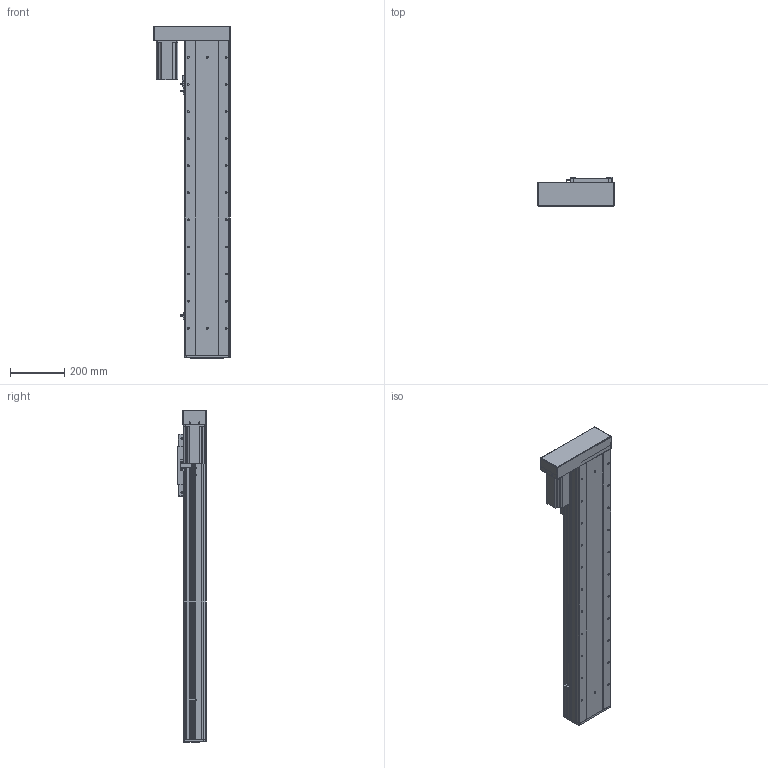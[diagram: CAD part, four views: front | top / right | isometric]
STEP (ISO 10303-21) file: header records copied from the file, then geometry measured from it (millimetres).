
FILE_DESCRIPTION (( 'STEP AP203' ), '1' );
FILE_NAME ('RY170F-L2020-300-LK.SLDASM_850.step', '2021-03-02T09:00:46', ( '盈信电脑' ), ( '东莞市道滘镇水果街19号' ), 'SwSTEP 2.0', 'SolidWorks 2012', '' );
FILE_SCHEMA (( 'CONFIG_CONTROL_DESIGN' ));
Products named in the file (20): RY170F-詩湍揤踡輸; 滅袉蝶18-24; RY170F-酘衵殏萇儂釱; 侐源滅袉蝶; RY170F-揤踡謫假蚾粣; RY170F酘衵殏萇儂欶; RY170F-L2020-300-LK.SLDASM_850; 怢湛750W萇儂ㄗ80遺ㄘ; RY170F-蛌殏萇儂假蚾啣; RY170F俋离覜茼え; RY170F-綴裔啣; 覜茼ん672; RY100F-詩湍揤踡謫; RY170F-300眻蟀倰第奻裔啣-LK_850; 滅袉蝶18-10; RY170F-丝杆铝滑块连接板; RY170F-300眻蟀祥凄詩湍-LK_850; RY170F-佪裝臏賑輸20蹟譫; RY170F-300眻蟀倰第菁釱-LK_850; RY170F-滅鳥奻裔
Assembly tree (24 placements, depth 2):
  RY170F-L2020-300-LK.SLDASM_850
    RY170F-滅鳥奻裔
    RY170F-300眻蟀祥凄詩湍-LK_850
    RY170F-300眻蟀倰第菁釱-LK_850
    RY170F-佪裝臏賑輸20蹟譫
    RY170F-丝杆铝滑块连接板
    RY170F-300眻蟀倰第奻裔啣-LK_850  x2
    滅袉蝶18-10
    RY100F-詩湍揤踡謫
    RY170F-綴裔啣
    覜茼ん672  x3
    RY170F俋离覜茼え
    RY170F-揤踡謫假蚾粣
    RY170F-詩湍揤踡輸  x2
    滅袉蝶18-24
    侐源滅袉蝶  x2
    RY170F-酘衵殏萇儂釱
    RY170F-蛌殏萇儂假蚾啣
    怢湛750W萇儂ㄗ80遺ㄘ
    RY170F酘衵殏萇儂欶
Bounding box: 283 x 107 x 1226 mm (x, y, z)
Volume: 7251869 mm3; surface area: 2362646.8 mm2
Topology: 24 solids, 24 shells, 1885 faces, 5218 edges, 3300 vertices
Faces by surface type: cylinder 897, plane 760, cone 220, bspline 8
Entity records: 54027 total; most frequent: CARTESIAN_POINT 10856, DIRECTION 8783, ORIENTED_EDGE 8344, EDGE_CURVE 4172, AXIS2_PLACEMENT_3D 3177, VERTEX_POINT 2720, VECTOR 2429, LINE 2429
